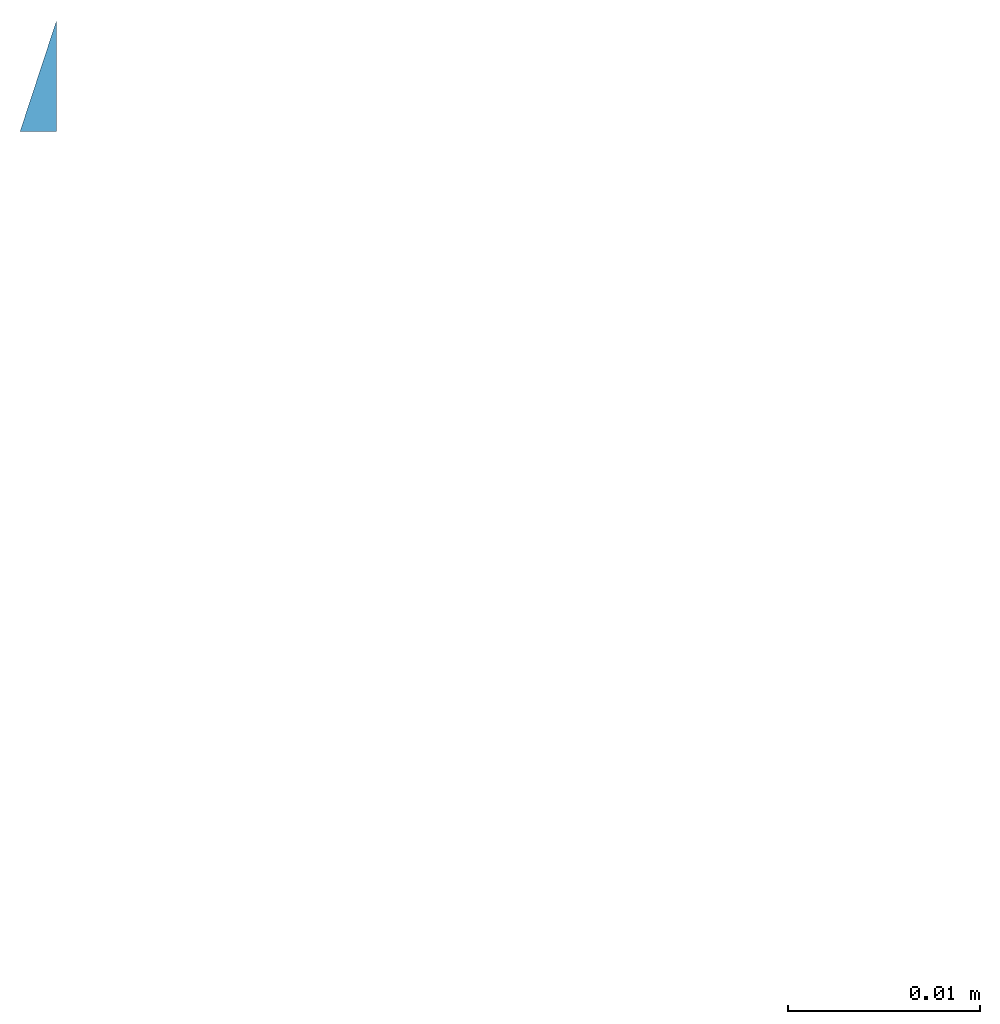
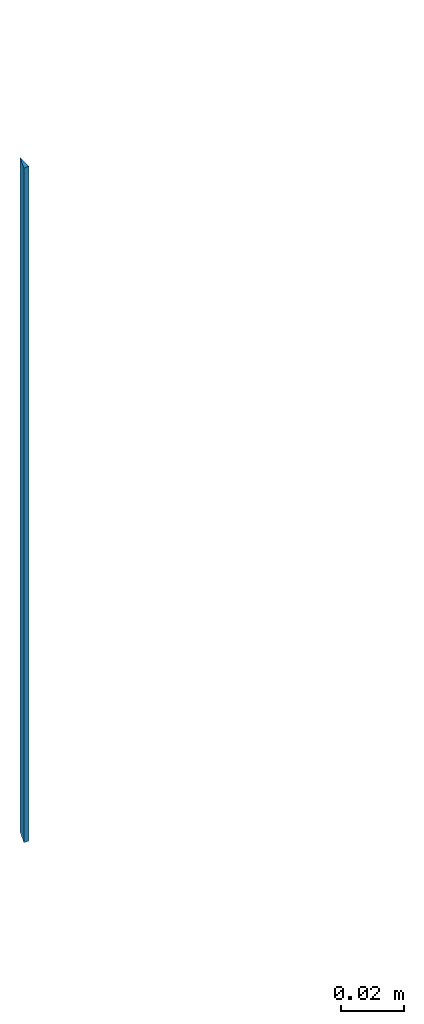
# One storey, part 5 of 9: 1 slab.
"""IFC4 building model written with IfcOpenShell, lengths in millimetres."""

from ifc_helpers import new_model, entity, si_unit, converted_unit, derived_unit, direction, frame, origin_with_axes, place, context, subcontext, project, spatial, polygons, material, constituent, constituent_set, type_object, element, save


model = new_model("IFC4")

# Units and contexts
model_context = context("Model", 3, precision=0.01, world=origin_with_axes(), true_north=direction((0.0, 1.0)))
body_context = subcontext(model_context, "Body", "Model", "MODEL_VIEW")
ifc_project = project(units=[si_unit("LENGTHUNIT", "METRE", prefix="MILLI"), si_unit("AREAUNIT", "SQUARE_METRE"), si_unit("VOLUMEUNIT", "CUBIC_METRE"), converted_unit("PLANEANGLEUNIT", "DEGREE", entity("IfcPlaneAngleMeasure", 0.0174532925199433), si_unit("PLANEANGLEUNIT", "RADIAN"), dimensions=[0, 0, 0, 0, 0, 0, 0]), converted_unit("TIMEUNIT", "Year", entity("IfcTimeMeasure", 31557600.0), si_unit("TIMEUNIT", "SECOND"), dimensions=[0, 0, 1, 0, 0, 0, 0]), si_unit("MASSUNIT", "GRAM", prefix="KILO"), si_unit("THERMODYNAMICTEMPERATUREUNIT", "DEGREE_CELSIUS"), si_unit("LUMINOUSINTENSITYUNIT", "LUMEN"), si_unit("ENERGYUNIT", "JOULE", prefix="MEGA"), derived_unit("THERMALCONDUCTANCEUNIT", [(si_unit("POWERUNIT", "WATT"), 1), (si_unit("LENGTHUNIT", "METRE"), -1), (si_unit("THERMODYNAMICTEMPERATUREUNIT", "KELVIN"), -1)]), derived_unit("SPECIFICHEATCAPACITYUNIT", [(si_unit("ENERGYUNIT", "JOULE"), 1), (si_unit("MASSUNIT", "GRAM", prefix="KILO"), -1), (si_unit("THERMODYNAMICTEMPERATUREUNIT", "KELVIN"), -1)]), derived_unit("MASSDENSITYUNIT", [(si_unit("MASSUNIT", "GRAM", prefix="KILO"), 1), (si_unit("VOLUMEUNIT", "CUBIC_METRE"), -1)])], contexts=[model_context])

# Site, building, storey
site_placement = place(None, origin_with_axes())
site = spatial("IfcSite", under=ifc_project, at=site_placement, Name="Exteriér", CompositionType="ELEMENT")
building_placement = place(site_placement, origin_with_axes())
building = spatial("IfcBuilding", under=site, at=building_placement, Name="Univerzitní lezecké centrum", CompositionType="ELEMENT")
storey_placement = place(building_placement, origin_with_axes())
storey = spatial("IfcBuildingStorey", under=building, at=storey_placement, Name="1.NP", CompositionType="ELEMENT", Elevation=0.0)

# Slab
ifc_material_1 = material(Name="Betonová dlažba zámková")
ifc_constituent_1 = constituent(ifc_material_1, Name="Betonová dlažba zámková")
ifc_material_2 = material(Name="Štěrk - frakce 4/8")
ifc_constituent_2 = constituent(ifc_material_2, Name="Štěrk - frakce 4/8")
ifc_material_3 = material(Name="Štěrk - frakce 8/16")
ifc_constituent_3 = constituent(ifc_material_3, Name="Štěrk - frakce 8/16")
ifc_material_4 = material(Name="Geotextilie 300 g/m2")
ifc_constituent_4 = constituent(ifc_material_4, Name="Geotextilie 300 g/m2")
ifc_constituent_set = constituent_set(constituents=[ifc_constituent_1, ifc_constituent_2, ifc_constituent_3, ifc_constituent_4], Name="!Okapový chodník/Terasa/chodník")
slab_type = type_object("IfcSlabType", Name="!Okapový chodník/Terasa/chodník 312", PredefinedType="ROOF")
slab_placement = place(storey_placement, frame((-5910.148351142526, 8400.000000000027, -424.8928657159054), z_axis=(0.0, 0.0, 1.0), x_axis=(0.0, -1.0, 0.0)))
element("IfcSlab", 1, at=slab_placement, inside=storey, type_object=slab_type, material=ifc_constituent_set, PredefinedType="ROOF", context=body_context, shape_type="Tessellation", body=[
    polygons([(-5.81880251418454, 1.911618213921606, 312.1006261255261), (0.0, 0.0, 312.0623937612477), (0.0, 1.909783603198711, 312.1005894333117), (-5.818802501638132, 1.91161828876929, 252.0886273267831), (7.490719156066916e-08, 5.916778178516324e-08, 252.0503949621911), (7.490719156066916e-08, 1.909783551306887, 252.0885906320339)], [[[1, 2, 3]], [[1, 4, 5, 2]], [[2, 5, 6, 3]], [[3, 6, 4, 1]], [[4, 6, 5]]], closed=True),
    polygons([(7.490719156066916e-08, 1.909783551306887, 252.0885906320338), (1.248459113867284e-07, 1.909783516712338, 212.0805914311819), (-5.818802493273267, 1.911618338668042, 212.0806281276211), (-5.818802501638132, 1.91161828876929, 252.0886273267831), (7.490719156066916e-08, 5.916778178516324e-08, 252.0503949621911), (1.248459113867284e-07, 9.86126735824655e-08, 212.0423957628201)], [[[1, 2, 3, 4]], [[5, 6, 2, 1]], [[3, 2, 6]], [[4, 3, 6, 5]], [[4, 5, 1]]], closed=True),
    polygons([(1.24844135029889e-07, 1.90978351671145, 212.080591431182), (3.245972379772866e-07, 1.909783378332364, 52.04859462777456), (-5.818802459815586, 1.911618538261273, 52.04863133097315), (-5.818802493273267, 1.911618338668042, 212.0806281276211), (1.24844135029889e-07, 9.86135617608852e-08, 212.04239576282), (3.245972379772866e-07, 2.56394017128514e-07, 52.01039896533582)], [[[1, 2, 3, 4]], [[5, 6, 2, 1]], [[3, 2, 6]], [[4, 3, 6, 5]], [[4, 5, 1]]], closed=True),
    polygons([(3.245972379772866e-07, 1.909783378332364, 52.04859462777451), (3.270947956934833e-07, 1.909783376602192, 50.04819466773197), (-5.818802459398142, 1.911618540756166, 50.04823137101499), (-5.818802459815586, 1.911618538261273, 52.04863133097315), (3.245972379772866e-07, 2.56394017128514e-07, 52.01039896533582), (3.270947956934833e-07, 2.583666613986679e-07, 50.00999900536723)], [[[1, 2, 3, 4]], [[5, 6, 2, 1]], [[3, 2, 6]], [[4, 3, 6, 5]], [[4, 5, 1]]], closed=True),
])

save(model, "model.ifc")
